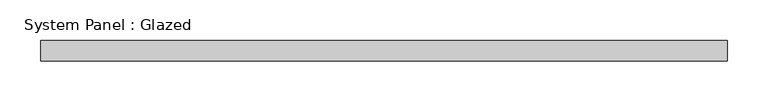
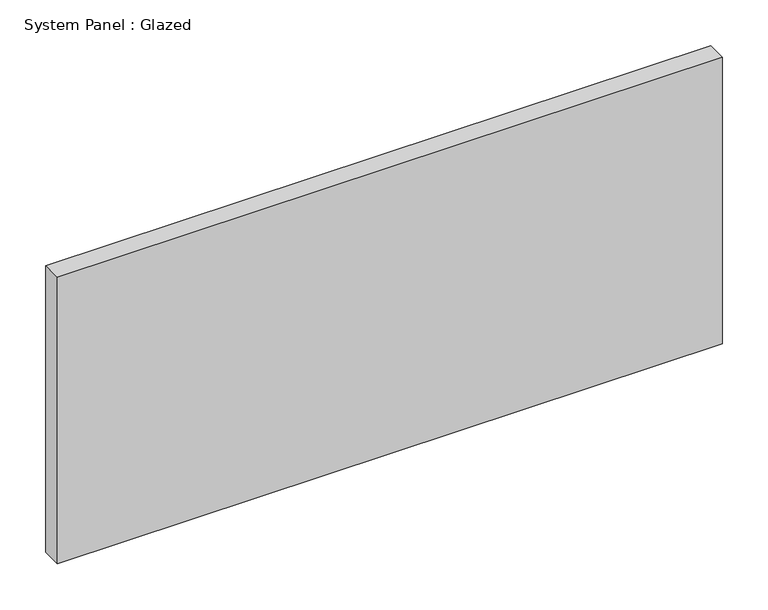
"""IFC4 building model written with IfcOpenShell, lengths in millimetres: plate geometry, System Panel : Glazed."""

from ifc_helpers import new_model, si_unit, origin, origin_with_axes, place, context, project, spatial, polyline, outline, extrude, source, transform, mapped, element, save


def system_panel_glazed_bda3f379(model_context):
    return source(origin(), model_context, "Body", "SweptSolid", [
        extrude(outline(polyline([(419.7, 24.5), (-419.7, 24.5), (-419.7, 49.5), (419.7, 49.5), (419.7, 24.5)])), origin_with_axes(), (0.0, 0.0, 1.0), 382.2),
    ])


if __name__ == "__main__":
    model = new_model("IFC4")
    model_context = context("Model", 3, world=origin())
    ifc_project = project(units=[si_unit("LENGTHUNIT", "METRE", prefix="MILLI")], contexts=[model_context])
    site = spatial("IfcSite", under=ifc_project)
    building = spatial("IfcBuilding", under=site)
    placement = place(None, origin())
    system_panel_glazed_shape = system_panel_glazed_bda3f379(model_context)
    element("IfcPlate", 1, ObjectType="System Panel : Glazed", at=placement, inside=building, context=model_context, shape_type="MappedRepresentation", body=[
        mapped(system_panel_glazed_shape, transform((0.0, 0.0, 0.0), x_axis=(1.0, 0.0, 0.0), y_axis=(0.0, 1.0, 0.0), z_axis=(0.0, 0.0, 1.0))),
    ])
    save(model, "model.ifc")
